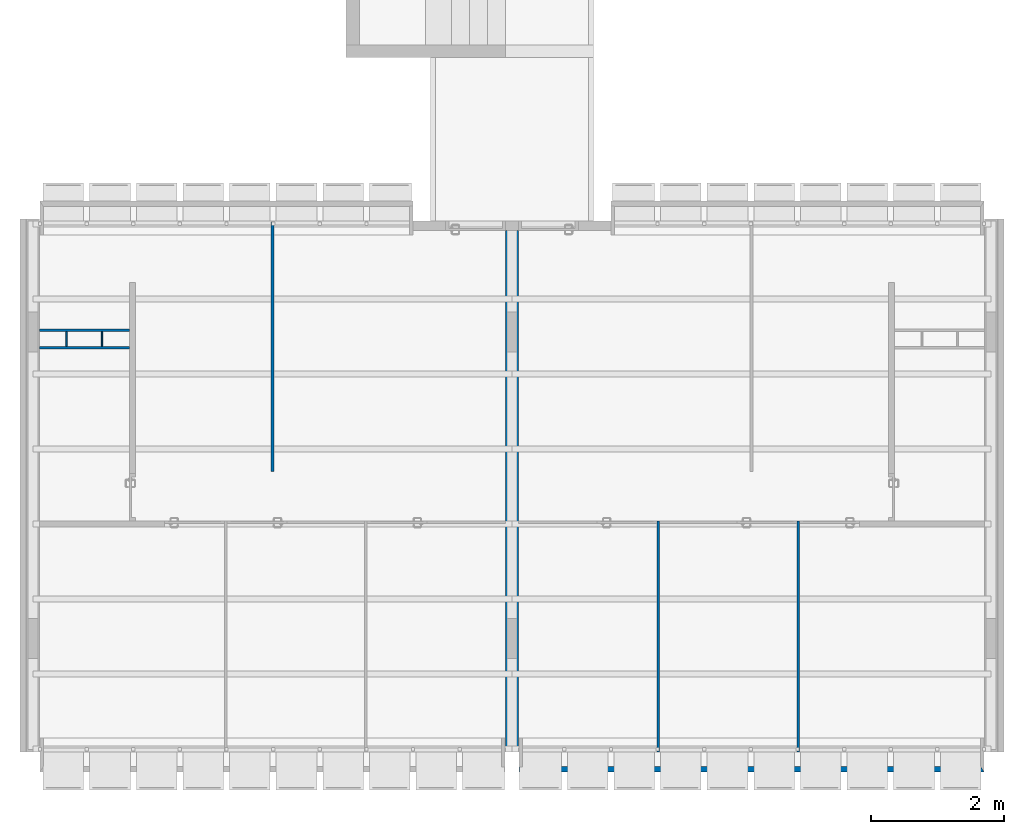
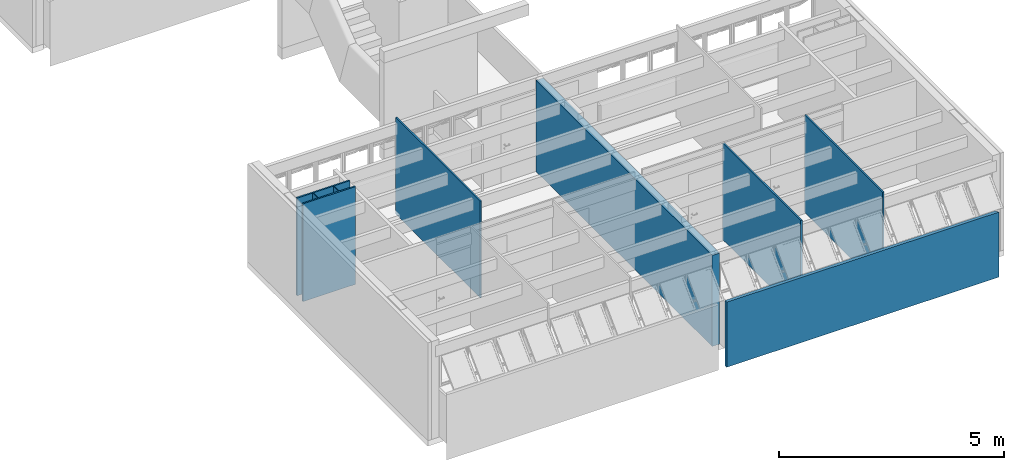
# One storey, part 22 of 40: 9 walls.
"""IFC4 building model written with IfcOpenShell, lengths in millimetres."""

from ifc_helpers import new_model, entity, si_unit, converted_unit, derived_unit, direction, frame, origin_with_axes, place, context, subcontext, project, spatial, line, indexed_curve, outline, extrude, material, layer, layer_set, layer_usage, type_object, element, save


model = new_model("IFC4")

# Units and contexts
model_context = context("Model", 3, precision=0.01, world=origin_with_axes(), true_north=direction((0.0, 1.0)))
body_context = subcontext(model_context, "Body", "Model", "MODEL_VIEW")
ifc_project = project(units=[si_unit("LENGTHUNIT", "METRE", prefix="MILLI"), si_unit("AREAUNIT", "SQUARE_METRE"), si_unit("VOLUMEUNIT", "CUBIC_METRE"), converted_unit("PLANEANGLEUNIT", "DEGREE", entity("IfcPlaneAngleMeasure", 0.0174532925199), si_unit("PLANEANGLEUNIT", "RADIAN"), dimensions=[0, 0, 0, 0, 0, 0, 0]), converted_unit("TIMEUNIT", "Year", entity("IfcTimeMeasure", 31556926.0), si_unit("TIMEUNIT", "SECOND"), dimensions=[0, 0, 1, 0, 0, 0, 0]), si_unit("MASSUNIT", "GRAM", prefix="KILO"), si_unit("THERMODYNAMICTEMPERATUREUNIT", "DEGREE_CELSIUS"), si_unit("LUMINOUSINTENSITYUNIT", "LUMEN"), si_unit("ENERGYUNIT", "JOULE", prefix="MEGA"), derived_unit("THERMALCONDUCTANCEUNIT", [(si_unit("POWERUNIT", "WATT"), 1), (si_unit("LENGTHUNIT", "METRE"), -1), (si_unit("THERMODYNAMICTEMPERATUREUNIT", "KELVIN"), -1)]), derived_unit("SPECIFICHEATCAPACITYUNIT", [(si_unit("ENERGYUNIT", "JOULE"), 1), (si_unit("MASSUNIT", "GRAM", prefix="KILO"), -1), (si_unit("THERMODYNAMICTEMPERATUREUNIT", "KELVIN"), -1)]), derived_unit("MASSDENSITYUNIT", [(si_unit("MASSUNIT", "GRAM", prefix="KILO"), 1), (si_unit("VOLUMEUNIT", "CUBIC_METRE"), -1)])], contexts=[model_context])

# Site, building, storey
site_placement = place(None, origin_with_axes())
site = spatial("IfcSite", under=ifc_project, at=site_placement, Name="Local", CompositionType="ELEMENT")
building_placement = place(site_placement, origin_with_axes())
building = spatial("IfcBuilding", under=site, at=building_placement, Name="Construção", CompositionType="ELEMENT")
storey_placement = place(building_placement, origin_with_axes())
storey = spatial("IfcBuildingStorey", under=building, at=storey_placement, Name="Primeiro Pavimento", CompositionType="ELEMENT", Elevation=0.0)

# Walls
ifc_material_1 = material(Name="GENÉRICO - VEDAÇÃO EXTERNA")
ifc_layer_1 = layer(ifc_material_1, 190.0, ventilated="UNKNOWN", Name="GENÉRICO - VEDAÇÃO EXTERNA")
ifc_layer_set_1 = layer_set([ifc_layer_1], Name="GENÉRICO - VEDAÇÃO EXTERNA 190")
ifc_layer_usage_1 = layer_usage(ifc_layer_set_1, "AXIS2", "NEGATIVE", 0.0)
wall_type_1 = type_object("IfcWallType", Name="GENÉRICO - VEDAÇÃO EXTERNA 190", PredefinedType="NOTDEFINED")
wall_1_placement = place(storey_placement, frame((7480.0, 8125.0, 0.0), z_axis=(0.0, 0.0, 1.0), x_axis=(0.0, -1.0, 0.0)))
element("IfcWall", 1, at=wall_1_placement, inside=storey, type_object=wall_type_1, material=ifc_layer_usage_1, Name="CIRC1-PAREDE-026", PredefinedType="NOTDEFINED", context=body_context, shape_type="SweptSolid", body=[
    extrude(outline(indexed_curve([(1.06581410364e-10, -190.0), (7825.0, -190.0), (7825.0, 0.0), (1.06581410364e-10, 0.0)], segments=[line(1, 2, 3, 4, 1)])), origin_with_axes(), (0.0, 0.0, 1.0), 2470.0),
])
ifc_layer_2 = layer(ifc_material_1, 40.0, ventilated="UNKNOWN", Name="GENÉRICO - VEDAÇÃO EXTERNA")
ifc_layer_set_2 = layer_set([ifc_layer_2], Name="GENÉRICO - VEDAÇÃO EXTERNA 40")
ifc_layer_usage_2 = layer_usage(ifc_layer_set_2, "AXIS2", "POSITIVE", 0.0)
wall_type_2 = type_object("IfcWallType", Name="GENÉRICO - VEDAÇÃO EXTERNA 40", PredefinedType="NOTDEFINED")
wall_2_placement = place(storey_placement, frame((9560.0, 3765.0, 0.0), z_axis=(0.0, 0.0, 1.0), x_axis=(0.0, -1.0, 0.0)))
element("IfcWall", 2, at=wall_2_placement, inside=storey, type_object=wall_type_2, material=ifc_layer_usage_2, Name="APTO2-PAREDE-005", PredefinedType="NOTDEFINED", context=body_context, shape_type="SweptSolid", body=[
    extrude(outline(indexed_curve([(0.0, 0.0), (3465.0, 0.0), (3465.0, 40.0), (0.0, 40.0)], segments=[line(1, 2, 3, 4, 1)])), origin_with_axes(), (0.0, 0.0, 1.0), 2620.0),
])
ifc_layer_usage_3 = layer_usage(ifc_layer_set_2, "AXIS2", "POSITIVE", 0.0)
wall_3_placement = place(storey_placement, frame((11660.0, 3765.0, 0.0), z_axis=(0.0, 0.0, 1.0), x_axis=(0.0, -1.0, 0.0)))
element("IfcWall", 3, at=wall_3_placement, inside=storey, type_object=wall_type_2, material=ifc_layer_usage_3, Name="APTO2-PAREDE-007", PredefinedType="NOTDEFINED", context=body_context, shape_type="SweptSolid", body=[
    extrude(outline(indexed_curve([(0.0, 0.0), (3465.0, 0.0), (3465.0, 40.0), (0.0, 40.0)], segments=[line(1, 2, 3, 4, 1)])), origin_with_axes(), (0.0, 0.0, 1.0), 2650.0),
])
ifc_layer_usage_4 = layer_usage(ifc_layer_set_2, "AXIS2", "NEGATIVE", 40.0)
wall_4_placement = place(storey_placement, frame((1730.0, 6645.0, 0.0), z_axis=(0.0, 0.0, 1.0), x_axis=(-1.0, 0.0, 0.0)))
element("IfcWall", 4, at=wall_4_placement, inside=storey, type_object=wall_type_2, material=ifc_layer_usage_4, Name="APTO1-PAREDE-010", PredefinedType="NOTDEFINED", context=body_context, shape_type="SweptSolid", body=[
    extrude(outline(indexed_curve([(90.0, 0.0), (1440.0, 0.0), (1440.0, 40.0), (90.0, 40.0)], segments=[line(1, 2, 3, 4, 1)])), origin_with_axes(), (0.0, 0.0, 1.0), 2650.0),
])
ifc_layer_usage_5 = layer_usage(ifc_layer_set_2, "AXIS2", "NEGATIVE", 40.0)
wall_5_placement = place(storey_placement, frame((290.0, 6345.0, 0.0), z_axis=(0.0, 0.0, 1.0), x_axis=(1.0, 0.0, 0.0)))
element("IfcWall", 5, at=wall_5_placement, inside=storey, type_object=wall_type_2, material=ifc_layer_usage_5, Name="APTO1-PAREDE-011", PredefinedType="NOTDEFINED", context=body_context, shape_type="SweptSolid", body=[
    extrude(outline(indexed_curve([(0.0, 0.0), (1350.0, 0.0), (1350.0, 40.0), (0.0, 40.0)], segments=[line(1, 2, 3, 4, 1)])), origin_with_axes(), (0.0, 0.0, 1.0), 2650.0),
])
ifc_layer_usage_6 = layer_usage(ifc_layer_set_2, "AXIS2", "NEGATIVE", 40.0)
wall_6_placement = place(storey_placement, frame((3810.0, 4505.0, 0.0), z_axis=(0.0, 0.0, 1.0), x_axis=(0.0, 1.0, 0.0)))
element("IfcWall", 6, at=wall_6_placement, inside=storey, type_object=wall_type_2, material=ifc_layer_usage_6, Name="APTO1-PAREDE-003", PredefinedType="NOTDEFINED", context=body_context, shape_type="SweptSolid", body=[
    extrude(outline(indexed_curve([(0.0, 0.0), (3750.0, 0.0), (3750.0, 40.0), (0.0, 40.0)], segments=[line(1, 2, 3, 4, 1)])), origin_with_axes(), (0.0, 0.0, 1.0), 2620.0),
])
ifc_layer_3 = layer(ifc_material_1, 20.0, ventilated="UNKNOWN", Name="GENÉRICO - VEDAÇÃO EXTERNA")
ifc_layer_set_3 = layer_set([ifc_layer_3], Name="GENÉRICO - VEDAÇÃO EXTERNA 20")
ifc_layer_usage_7 = layer_usage(ifc_layer_set_3, "AXIS2", "NEGATIVE", 0.0)
wall_type_3 = type_object("IfcWallType", Name="GENÉRICO - VEDAÇÃO EXTERNA 20", PredefinedType="NOTDEFINED")
wall_7_placement = place(storey_placement, frame((1240.0, 6645.0, 0.0), z_axis=(0.0, 0.0, 1.0), x_axis=(0.0, -1.0, 0.0)))
element("IfcWall", 7, at=wall_7_placement, inside=storey, type_object=wall_type_3, material=ifc_layer_usage_7, Name="APTO1-PAREDE-008", PredefinedType="NOTDEFINED", context=body_context, shape_type="SweptSolid", body=[
    extrude(outline(indexed_curve([(40.0, -20.0), (260.0, -20.0), (260.0, 0.0), (40.0, 0.0)], segments=[line(1, 2, 3, 4, 1)])), origin_with_axes(), (0.0, 0.0, 1.0), 2650.0),
])
ifc_layer_usage_8 = layer_usage(ifc_layer_set_3, "AXIS2", "NEGATIVE", 20.0)
wall_8_placement = place(storey_placement, frame((710.0, 6345.0, 0.0), z_axis=(0.0, 0.0, 1.0), x_axis=(0.0, 1.0, 0.0)))
element("IfcWall", 8, at=wall_8_placement, inside=storey, type_object=wall_type_3, material=ifc_layer_usage_8, Name="APTO1-PAREDE-009", PredefinedType="NOTDEFINED", context=body_context, shape_type="SweptSolid", body=[
    extrude(outline(indexed_curve([(40.0, 0.0), (260.0, 0.0), (260.0, 20.0), (40.0, 20.0)], segments=[line(1, 2, 3, 4, 1)])), origin_with_axes(), (0.0, 0.0, 1.0), 2650.0),
])
ifc_material_2 = material(Name="Concreto Armado Moldado in Loco - Estrutural")
ifc_layer_4 = layer(ifc_material_2, 80.0, ventilated="UNKNOWN", Name="Concreto Armado Moldado in Loco - Estrutural")
ifc_layer_set_4 = layer_set([ifc_layer_4], Name="Concreto Armado Moldado in Loco - Estrutural 80")
ifc_layer_usage_9 = layer_usage(ifc_layer_set_4, "AXIS2", "NEGATIVE", 80.0)
wall_type_4 = type_object("IfcWallType", Name="Concreto Armado Moldado in Loco - Estrutural 80", PredefinedType="NOTDEFINED")
wall_9_placement = place(storey_placement, frame((14470.0, 79.9999999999, -450.0), z_axis=(0.0, 0.0, 1.0), x_axis=(-1.0, 0.0, 0.0)))
element("IfcWall", 9, at=wall_9_placement, inside=storey, type_object=wall_type_4, material=ifc_layer_usage_9, Name="APTO2-PAREDE-015", PredefinedType="NOTDEFINED", context=body_context, shape_type="SweptSolid", body=[
    extrude(outline(indexed_curve([(50.0, 0.0), (6980.0, 0.0), (6980.0, 80.0), (0.0, 80.0)], segments=[line(1, 2, 3, 4, 1)])), origin_with_axes(), (0.0, 0.0, 1.0), 1765.0),
])

save(model, "model.ifc")
